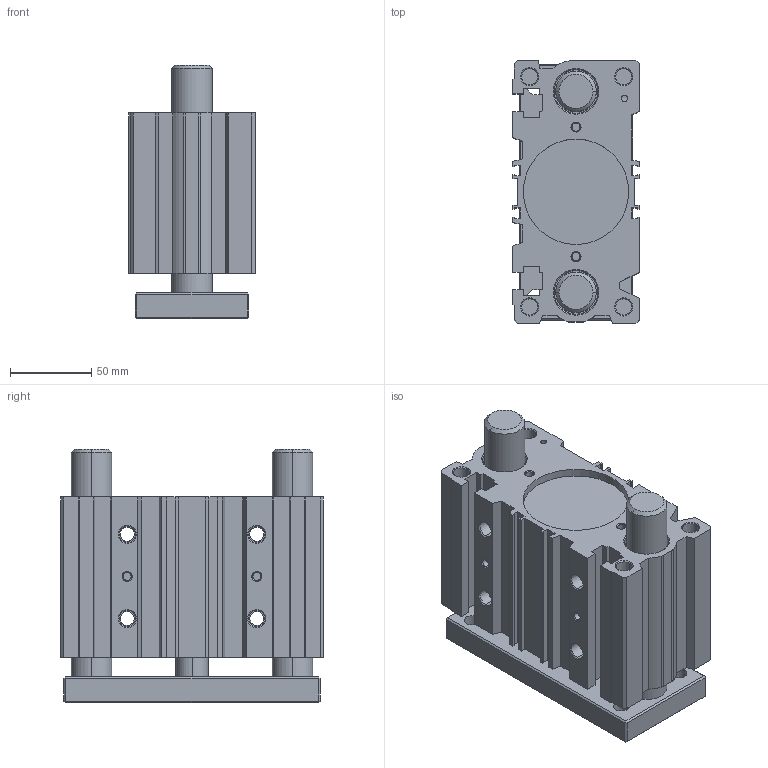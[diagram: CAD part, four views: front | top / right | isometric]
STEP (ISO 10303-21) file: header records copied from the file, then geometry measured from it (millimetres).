
FILE_DESCRIPTION (( 'STEP AP203' ), '1' );
FILE_NAME ('MGPM-63X50-CYLINDER.STEP', '2015-06-27T09:52:02', ( 'user' ), ( '' ), 'SwSTEP 2.0', 'SolidWorks 2013', '' );
FILE_SCHEMA (( 'CONFIG_CONTROL_DESIGN' ));
Length unit declared in the file: millimetre
Products named in the file (3): MGPM-63X50 BORU; MGPM-63X50 烰 KAFA M尳; MGPM-63X50-CYLINDER
Assembly tree (2 placements, depth 2):
  MGPM-63X50-CYLINDER
    MGPM-63X50 BORU
    MGPM-63X50 烰 KAFA M尳
Bounding box: 78 x 162 x 156.5 mm (x, y, z)
Volume: 1212497.3 mm3; surface area: 195214.1 mm2
Topology: 2 solids, 2 shells, 365 faces, 880 edges, 558 vertices
Faces by surface type: plane 200, cylinder 103, cone 62
Entity records: 10971 total; most frequent: DIRECTION 1882, CARTESIAN_POINT 1879, ORIENTED_EDGE 1760, EDGE_CURVE 880, AXIS2_PLACEMENT_3D 637, VECTOR 608, LINE 608, VERTEX_POINT 558
